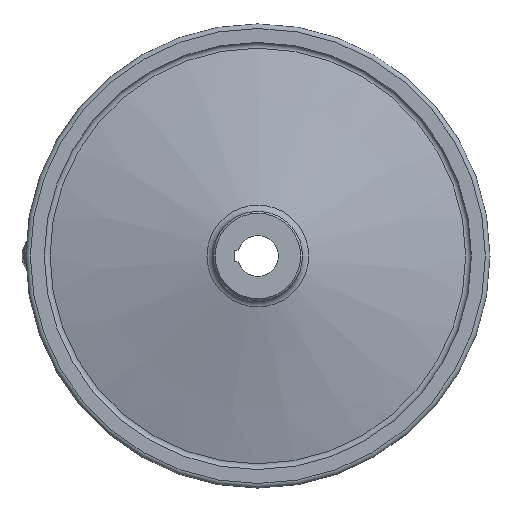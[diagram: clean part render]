
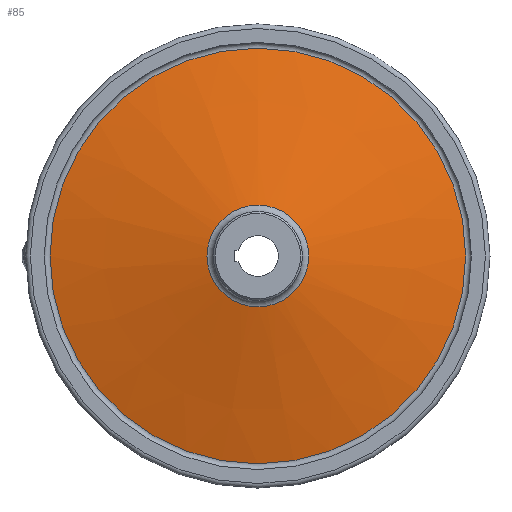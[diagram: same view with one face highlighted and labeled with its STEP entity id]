
A CAD part, left-side view. The second image highlights one B-rep face of the part: STEP entity #85.
In plain terms, the highlighted conical face has half-angle 76 degrees and reference radius 27.411 mm.
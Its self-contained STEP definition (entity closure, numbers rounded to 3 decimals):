
#85 = ADVANCED_FACE( '', ( #136, #137 ), #138, .T. );
#136 = FACE_OUTER_BOUND( '', #226, .T. );
#137 = FACE_BOUND( '', #227, .T. );
#138 = CONICAL_SURFACE( '', #228, 27.411, 1.326 );
#226 = EDGE_LOOP( '', ( #345 ) );
#227 = EDGE_LOOP( '', ( #346 ) );
#228 = AXIS2_PLACEMENT_3D( '', #347, #348, #349 );
#345 = ORIENTED_EDGE( '', *, *, #477, .T. );
#346 = ORIENTED_EDGE( '', *, *, #476, .F. );
#347 = CARTESIAN_POINT( '', ( 14.851, 0., 0. ) );
#348 = DIRECTION( '', ( 1., 0., 0. ) );
#349 = DIRECTION( '', ( 0., 0., -1. ) );
#476 = EDGE_CURVE( '', #530, #530, #531, .T. );
#477 = EDGE_CURVE( '', #532, #532, #533, .T. );
#530 = VERTEX_POINT( '', #610 );
#531 = CIRCLE( '', #611, 27.411 );
#532 = VERTEX_POINT( '', #612 );
#533 = CIRCLE( '', #613, 111.895 );
#610 = CARTESIAN_POINT( '', ( 14.851, 0., 27.411 ) );
#611 = AXIS2_PLACEMENT_3D( '', #688, #689, #690 );
#612 = CARTESIAN_POINT( '', ( 35.915, 0., 111.895 ) );
#613 = AXIS2_PLACEMENT_3D( '', #691, #692, #693 );
#688 = CARTESIAN_POINT( '', ( 14.851, 0., 0. ) );
#689 = DIRECTION( '', ( -1., 0., 0. ) );
#690 = DIRECTION( '', ( 0., 0., 1. ) );
#691 = CARTESIAN_POINT( '', ( 35.915, 0., 0. ) );
#692 = DIRECTION( '', ( -1., 0., 0. ) );
#693 = DIRECTION( '', ( 0., 0., 1. ) );
